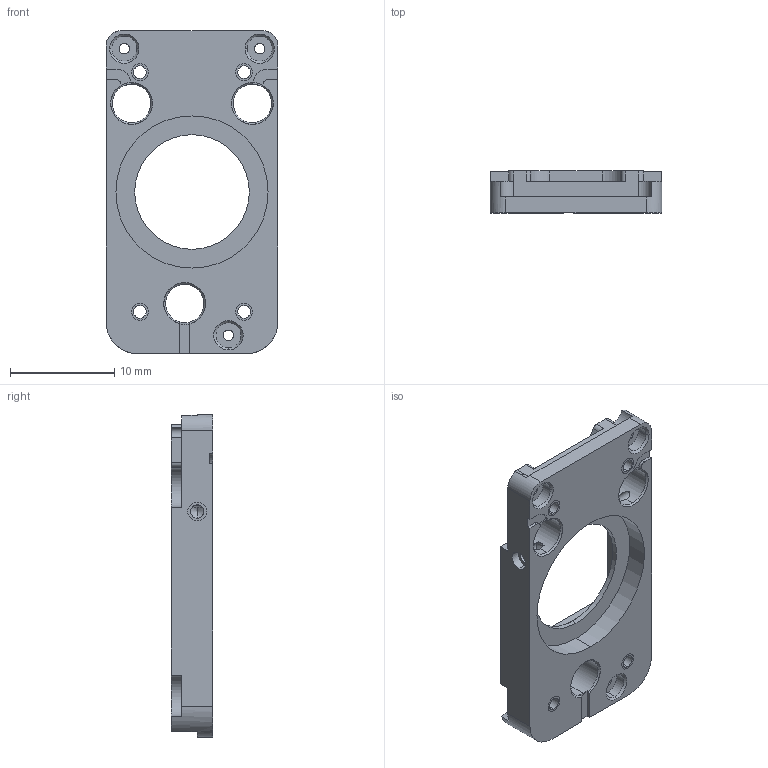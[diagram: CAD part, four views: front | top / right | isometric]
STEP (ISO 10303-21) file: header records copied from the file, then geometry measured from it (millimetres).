
FILE_DESCRIPTION(/* description */ ('(C) Elphel, Inc. 2013. Licensed under CERN OHL v.1.1 or later, see http://ohwr.org/cernohl'),/* implementation_level */ '2;1');
FILE_NAME(/* name */ '0353-19-65D.stp',/* time_stamp */ '2013-04-04T21:08:03-06:00',/* author */ (''),/* organization */ ('Elphel, Inc'),/* preprocessor_version */ 'ST-DEVELOPER v14',/* originating_system */ 'VariCAD 2013-1.03; kernel version (20121105)',/* authorisation */ '');
FILE_SCHEMA (('CONFIG_CONTROL_DESIGN'));
Length unit declared in the file: millimetre
Products named in the file (9): 0353-19-65D
Assembly tree (8 placements, depth 2):
  0353-19-65D
    (unnamed)
    (unnamed)
    (unnamed)
    (unnamed)
    (unnamed)
    (unnamed)
    (unnamed)
    (unnamed)
Bounding box: 16.5 x 4 x 31 mm (x, y, z)
Volume: 1066.7 mm3; surface area: 2007.6 mm2
Topology: 8 solids, 8 shells, 252 faces, 716 edges, 458 vertices
Faces by surface type: cylinder 123, plane 87, cone 42
Entity records: 9222 total; most frequent: CARTESIAN_POINT 1995, DIRECTION 1494, ORIENTED_EDGE 1420, EDGE_CURVE 710, AXIS2_PLACEMENT_3D 573, VERTEX_POINT 458, LINE 348, VECTOR 348
